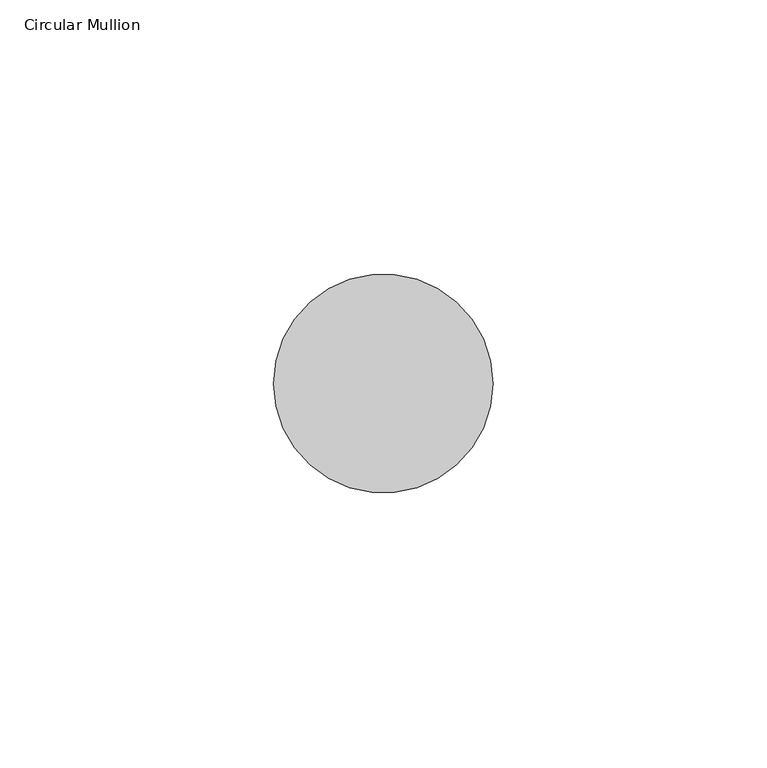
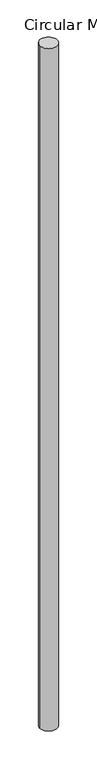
"""IFC4 building model written with IfcOpenShell, lengths in millimetres: member geometry, Circular Mullion : GRADIL 40mm."""

from ifc_helpers import new_model, si_unit, point, frame, origin, origin_2d, place, context, project, spatial, circle_curve, trimmed, segment, composite_curve, outline, extrude, source, transform, mapped, element, save


def circular_mullion_f3b0c618(model_context):
    return source(origin(), model_context, "Body", "SweptSolid", [
        extrude(outline(composite_curve([segment(trimmed(circle_curve(origin_2d(), 20.0), [point((20.0, 0.0))], [point((-20.0, 0.0))], False, "CARTESIAN"), True, "CONTINUOUS"), segment(trimmed(circle_curve(origin_2d(), 20.0), [point((-20.0, 0.0))], [point((20.0, 0.0))], False, "CARTESIAN"), True, "CONTINUOUS")], self_intersect=False)), frame((0.0, 0.0, -1661.339464), z_axis=(0.0, 0.0, 1.0), x_axis=(1.0, 0.0, 0.0)), (0.0, 0.0, 1.0), 1661.339464),
    ])


if __name__ == "__main__":
    model = new_model("IFC4")
    model_context = context("Model", 3, world=origin())
    ifc_project = project(units=[si_unit("LENGTHUNIT", "METRE", prefix="MILLI")], contexts=[model_context])
    site = spatial("IfcSite", under=ifc_project)
    building = spatial("IfcBuilding", under=site)
    placement = place(None, origin())
    circular_mullion_shape = circular_mullion_f3b0c618(model_context)
    element("IfcMember", 1, ObjectType="Circular Mullion : GRADIL 40mm", at=placement, inside=building, context=model_context, shape_type="MappedRepresentation", body=[
        mapped(circular_mullion_shape, transform((0.0, 0.0, 0.0), x_axis=(1.0, 0.0, 0.0), y_axis=(0.0, 1.0, 0.0), z_axis=(0.0, 0.0, 1.0))),
    ])
    save(model, "model.ifc")
